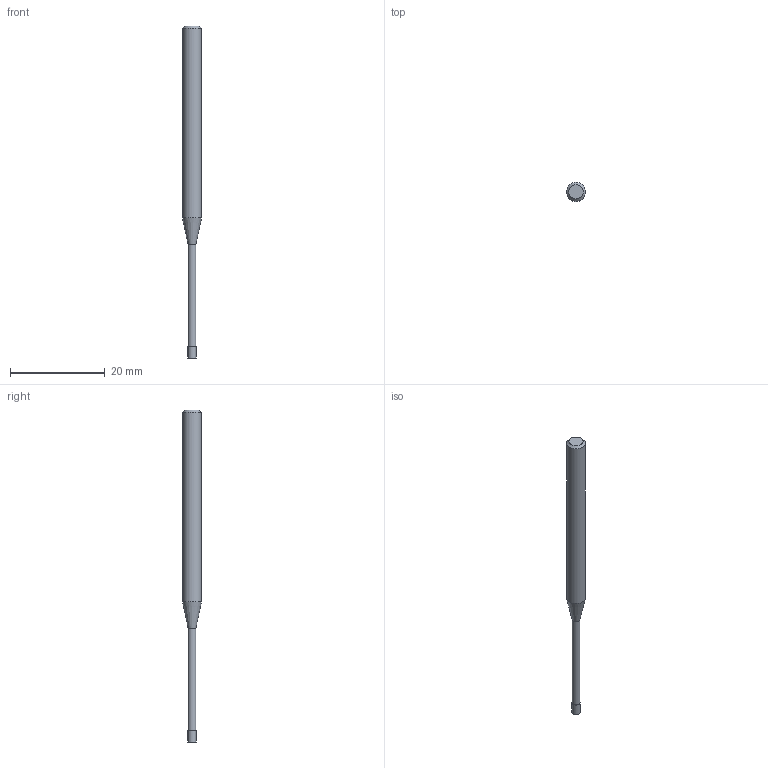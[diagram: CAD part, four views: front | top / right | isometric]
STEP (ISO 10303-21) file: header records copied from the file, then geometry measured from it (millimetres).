
FILE_DESCRIPTION((''),'2;1');
FILE_NAME('C:\Users\nsx150\AppData\Local\Temp\Mastercam 2021\17T8Q8S9EB\TEMP.step','2021-04-21T16:15:16',(''),(''),'STEP Write','Mastercam 2021 ... CNC Software, Inc.','');
FILE_SCHEMA(('AUTOMOTIVE_DESIGN'));
Length unit declared in the file: millimetre
Products named in the file (1): None
Bounding box: 4 x 4 x 70 mm (x, y, z)
Volume: 595.4 mm3; surface area: 698.8 mm2
Topology: 2 solids, 2 shells, 9 faces, 12 edges, 7 vertices
Faces by surface type: plane 4, cylinder 3, cone 2
Full cylindrical faces by diameter (mm): 1.65 x1, 1.7 x1, 4 x1
Entity records: 211 total; most frequent: DIRECTION 36, CARTESIAN_POINT 25, AXIS2_PLACEMENT_3D 18, ORIENTED_EDGE 14, EDGE_LOOP 14, STYLED_ITEM 12, ADVANCED_FACE 9, FACE_BOUND 8
